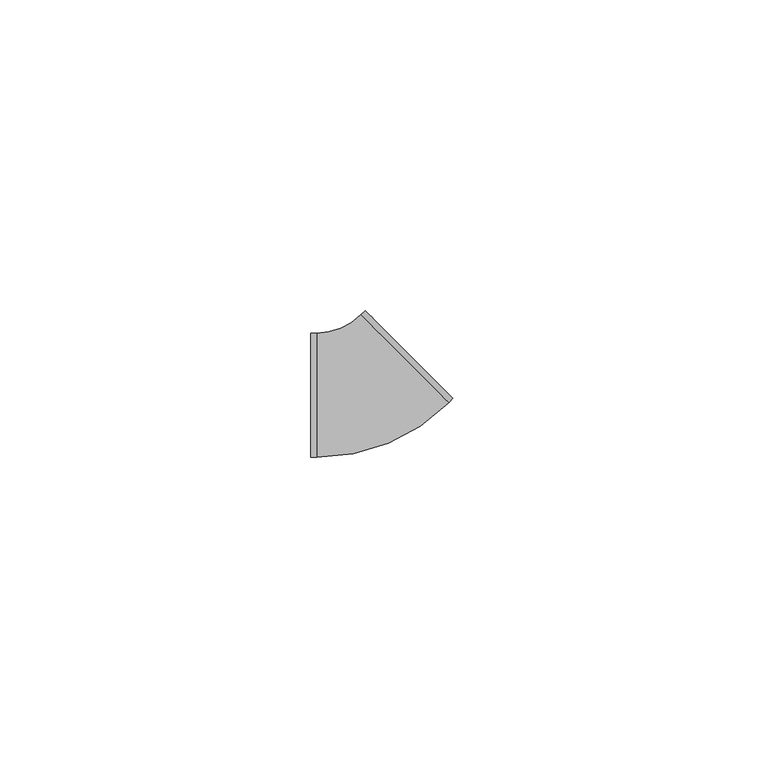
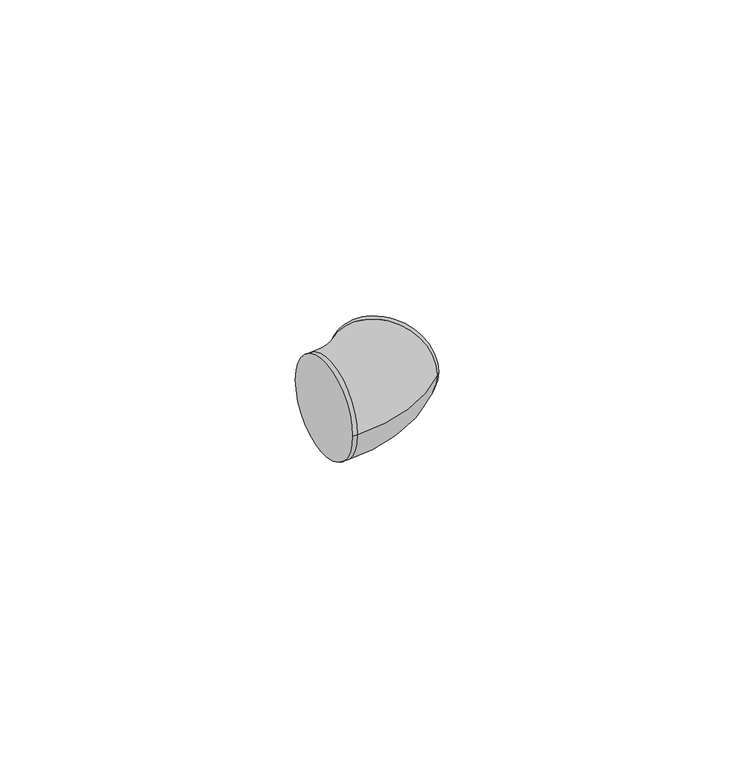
"""IFC4 building model written with IfcOpenShell, lengths in millimetres: cable carrier fitting geometry, ADSK_Поворот_Минимальный размер : Неспецифицируемый."""

from ifc_helpers import new_model, si_unit, point, frame, origin, place, context, project, spatial, circle_curve, ellipse_curve, trimmed, source, transform, mapped, element, save
from ifc_brep_helpers import plane_surface, cylinder_surface, revolved_surface, advanced_brep


def cable_carrier_fitting_746188a3(model_context):
    return source(origin(), model_context, "Body", "AdvancedBrep", [
        advanced_brep(
        [(-9.2845452, -10.0, 0.0), (-9.2845452, 10.0, 0.0), (-8.2845452, -10.0, 0.0), (-8.2845452, 10.0, 0.0), (-1.213312, 12.9290975, 0.0), (12.9291543, -1.2127074, 0.0), (13.6362445, -0.5055841, 0.0), (-0.5062218, 13.6362208, 0.0)],
        [
            (0, 1, circle_curve(frame((-9.2845452, 0.0, 0.0), z_axis=(-1.0, -4.92260399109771e-12, 0.0), x_axis=(-4.92260399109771e-12, 1.0, 0.0)), 10.0)),
            (1, 0, circle_curve(frame((-9.2845452, 0.0, 0.0), z_axis=(-1.0, -4.92260399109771e-12, 0.0), x_axis=(-4.92260399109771e-12, 1.0, 0.0)), 10.0)),
            (0, 2),
            (2, 3, circle_curve(frame((-8.2845452, 0.0, 0.0), z_axis=(-1.0, -4.92260399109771e-12, 0.0), x_axis=(-4.92260399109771e-12, 1.0, 0.0)), 10.0)),
            (3, 1),
            (3, 2, circle_curve(frame((-8.2845452, 0.0, 0.0), z_axis=(-1.0, -4.92260399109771e-12, 0.0), x_axis=(-4.92260399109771e-12, 1.0, 0.0)), 10.0)),
            (4, 3, circle_curve(frame((-8.2845452, 20.0, 0.0), z_axis=(0.0, 0.0, -1.0), x_axis=(0.0, -1.0, 0.0)), 10.0)),
            (2, 5, circle_curve(frame((-8.2845452, 20.0, 0.0), z_axis=(0.0, 0.0, 1.0), x_axis=(0.0, -1.0, 0.0)), 30.0)),
            (5, 4, circle_curve(frame((5.8579211, 5.8581951, 0.0), z_axis=(-0.7070902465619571, -0.7071233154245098, 0.0), x_axis=(-0.7071233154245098, 0.7070902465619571, 0.0)), 10.0)),
            (4, 5, circle_curve(frame((5.8579211, 5.8581951, 0.0), z_axis=(-0.7070902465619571, -0.7071233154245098, 0.0), x_axis=(-0.7071233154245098, 0.7070902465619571, 0.0)), 10.0)),
            (6, 7, circle_curve(frame((6.5650114, 6.5653184, 0.0), z_axis=(0.7070902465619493, 0.7071233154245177, 0.0), x_axis=(-0.7071233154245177, 0.7070902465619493, 0.0)), 10.0)),
            (7, 6, circle_curve(frame((6.5650114, 6.5653184, 0.0), z_axis=(0.7070902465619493, 0.7071233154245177, 0.0), x_axis=(-0.7071233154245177, 0.7070902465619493, 0.0)), 10.0)),
            (5, 6),
            (7, 4),
        ],
        [
            plane_surface(frame((-9.2845452, 0.0, 0.0), z_axis=(-1.0, -4.92260399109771e-12, 0.0), x_axis=(0.0, 0.0, 1.0))),
            cylinder_surface(frame((-9.2845452, 0.0, 0.0), z_axis=(-1.0, -4.92260399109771e-12, 0.0), x_axis=(-4.92260399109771e-12, 1.0, 0.0)), 10.0),
            revolved_surface(trimmed(ellipse_curve(frame((-8.2845452, 0.0, 0.0), z_axis=(-1.0, 0.0, 0.0), x_axis=(0.0, 1.0, 0.0)), 10.0, 10.0), [point((-8.2845452, -10.0, 0.0))], [point((-8.2845452, 10.0, 0.0))], True, "CARTESIAN"), (-8.2845452, 20.0, 0.0), (0.0, 0.0, 1.0)),
            revolved_surface(trimmed(ellipse_curve(frame((-8.2845452, 0.0, 0.0), z_axis=(-1.0, 0.0, 0.0), x_axis=(0.0, 1.0, 0.0)), 10.0, 10.0), [point((-8.2845452, 10.0, 0.0))], [point((-8.2845452, -10.0, 0.0))], True, "CARTESIAN"), (-8.2845452, 20.0, 0.0), (0.0, 0.0, 1.0)),
            plane_surface(frame((6.5650114, 6.5653184, 0.0), z_axis=(0.7070902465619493, 0.7071233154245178, 0.0), x_axis=(0.0, 0.0, 1.0))),
            cylinder_surface(frame((5.8579211, 5.8581951, 0.0), z_axis=(-0.7070902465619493, -0.7071233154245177, 0.0), x_axis=(-0.7071233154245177, 0.7070902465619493, 0.0)), 10.0),
        ],
        [
            (0, [[1, 2]]),
            (1, [[-1, 3, 4, 5]]),
            (1, [[-2, -5, 6, -3]]),
            (2, [[7, -4, 8, 9]]),
            (3, [[-8, -6, -7, 10]]),
            (4, [[11, 12]]),
            (5, [[-9, 13, -12, 14]]),
            (5, [[-10, -14, -11, -13]]),
        ],
    ),
    ])


if __name__ == "__main__":
    model = new_model("IFC4")
    model_context = context("Model", 3, world=origin())
    ifc_project = project(units=[si_unit("LENGTHUNIT", "METRE", prefix="MILLI")], contexts=[model_context])
    site = spatial("IfcSite", under=ifc_project)
    building = spatial("IfcBuilding", under=site)
    placement = place(None, origin())
    cable_carrier_fitting_shape = cable_carrier_fitting_746188a3(model_context)
    element("IfcCableCarrierFitting", 1, ObjectType="ADSK_Поворот_Минимальный размер : Неспецифицируемый", at=placement, inside=building, context=model_context, shape_type="MappedRepresentation", body=[
        mapped(cable_carrier_fitting_shape, transform((0.0, 0.0, 0.0), x_axis=(1.0, 0.0, 0.0), y_axis=(0.0, 1.0, 0.0), z_axis=(0.0, 0.0, 1.0))),
    ])
    save(model, "model.ifc")
